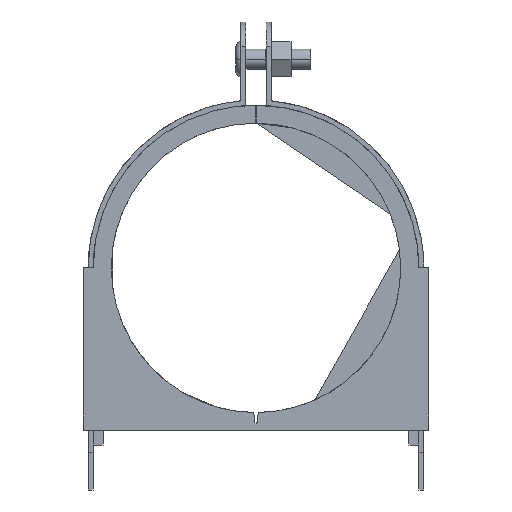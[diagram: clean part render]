
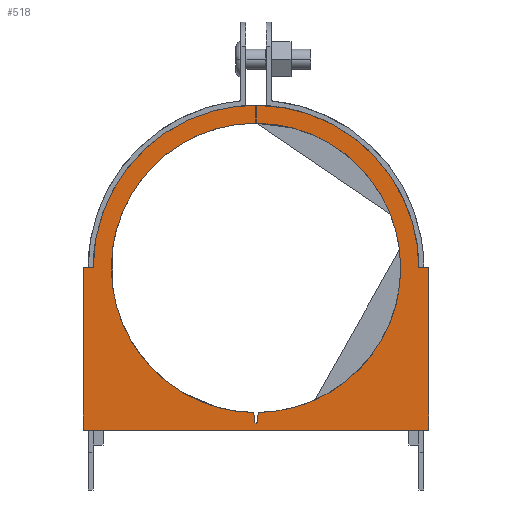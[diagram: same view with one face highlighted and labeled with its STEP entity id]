
A CAD part, front view. The second image highlights one B-rep face of the part: STEP entity #518.
In plain terms, the highlighted planar face has unit normal (0, -1, 0).
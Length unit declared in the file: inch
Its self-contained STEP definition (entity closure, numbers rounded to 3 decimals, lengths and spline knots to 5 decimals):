
#518=ADVANCED_FACE('',(#1274),#1275,.T.);
#1274=FACE_OUTER_BOUND('',#2351,.T.);
#1275=PLANE('',#2352);
#2351=EDGE_LOOP('',(#4117,#4118,#4119,#4120,#4121,#4122,#4123,#4124,#4125,#4126,#4127,#4128,#4129,#4130,#4131,#4132,#4133));
#2352=AXIS2_PLACEMENT_3D('',#4134,#4135,#4136);
#4117=ORIENTED_EDGE('',*,*,#5277,.F.);
#4118=ORIENTED_EDGE('',*,*,#5278,.F.);
#4119=ORIENTED_EDGE('',*,*,#5279,.F.);
#4120=ORIENTED_EDGE('',*,*,#5280,.F.);
#4121=ORIENTED_EDGE('',*,*,#5235,.F.);
#4122=ORIENTED_EDGE('',*,*,#5281,.F.);
#4123=ORIENTED_EDGE('',*,*,#5211,.F.);
#4124=ORIENTED_EDGE('',*,*,#5282,.F.);
#4125=ORIENTED_EDGE('',*,*,#5283,.F.);
#4126=ORIENTED_EDGE('',*,*,#5284,.F.);
#4127=ORIENTED_EDGE('',*,*,#5249,.F.);
#4128=ORIENTED_EDGE('',*,*,#5228,.F.);
#4129=ORIENTED_EDGE('',*,*,#5285,.F.);
#4130=ORIENTED_EDGE('',*,*,#5184,.F.);
#4131=ORIENTED_EDGE('',*,*,#5286,.F.);
#4132=ORIENTED_EDGE('',*,*,#5287,.F.);
#4133=ORIENTED_EDGE('',*,*,#5288,.F.);
#4134=CARTESIAN_POINT('',(2.10021,-0.125,2.61663));
#4135=DIRECTION('',(0.0,-1.0,0.0));
#4136=DIRECTION('',(1.0,0.0,0.0));
#5184=EDGE_CURVE('',#5591,#5592,#5593,.T.);
#5211=EDGE_CURVE('',#5634,#5636,#5637,.T.);
#5228=EDGE_CURVE('',#5659,#5660,#5661,.T.);
#5235=EDGE_CURVE('',#5671,#5672,#5673,.T.);
#5249=EDGE_CURVE('',#5660,#5694,#5695,.T.);
#5277=EDGE_CURVE('',#5738,#5739,#5740,.T.);
#5278=EDGE_CURVE('',#5741,#5738,#5742,.T.);
#5279=EDGE_CURVE('',#5743,#5741,#5744,.T.);
#5280=EDGE_CURVE('',#5672,#5743,#5745,.T.);
#5281=EDGE_CURVE('',#5636,#5671,#5746,.T.);
#5282=EDGE_CURVE('',#5747,#5634,#5748,.T.);
#5283=EDGE_CURVE('',#5749,#5747,#5750,.T.);
#5284=EDGE_CURVE('',#5694,#5749,#5751,.T.);
#5285=EDGE_CURVE('',#5592,#5659,#5752,.T.);
#5286=EDGE_CURVE('',#5753,#5591,#5754,.T.);
#5287=EDGE_CURVE('',#5755,#5753,#5756,.T.);
#5288=EDGE_CURVE('',#5739,#5755,#5757,.T.);
#5591=VERTEX_POINT('',#6148);
#5592=VERTEX_POINT('',#6149);
#5593=LINE('',#6150,#6151);
#5634=VERTEX_POINT('',#6215);
#5636=VERTEX_POINT('',#6218);
#5637=LINE('',#6219,#6220);
#5659=VERTEX_POINT('',#6254);
#5660=VERTEX_POINT('',#6255);
#5661=B_SPLINE_CURVE_WITH_KNOTS('',3,(#6256,#6257,#6258,#6259),.UNSPECIFIED.,.F.,.F.,(4,4),(-1.0,-0.0),.UNSPECIFIED.);
#5671=VERTEX_POINT('',#6277);
#5672=VERTEX_POINT('',#6278);
#5673=LINE('',#6279,#6280);
#5694=VERTEX_POINT('',#6313);
#5695=LINE('',#6314,#6315);
#5738=VERTEX_POINT('',#6388);
#5739=VERTEX_POINT('',#6389);
#5740=B_SPLINE_CURVE_WITH_KNOTS('',3,(#6390,#6391,#6392,#6393),.UNSPECIFIED.,.F.,.F.,(4,4),(-1.0,-0.0),.UNSPECIFIED.);
#5741=VERTEX_POINT('',#6394);
#5742=B_SPLINE_CURVE_WITH_KNOTS('',3,(#6395,#6396,#6397,#6398),.UNSPECIFIED.,.F.,.F.,(4,4),(-1.0,-0.0),.UNSPECIFIED.);
#5743=VERTEX_POINT('',#6399);
#5744=LINE('',#6400,#6401);
#5745=B_SPLINE_CURVE_WITH_KNOTS('',3,(#6402,#6403,#6404,#6405),.UNSPECIFIED.,.F.,.F.,(4,4),(-1.0,-0.0),.UNSPECIFIED.);
#5746=LINE('',#6406,#6407);
#5747=VERTEX_POINT('',#6408);
#5748=LINE('',#6409,#6410);
#5749=VERTEX_POINT('',#6411);
#5750=LINE('',#6412,#6413);
#5751=B_SPLINE_CURVE_WITH_KNOTS('',3,(#6414,#6415,#6416,#6417),.UNSPECIFIED.,.F.,.F.,(4,4),(-1.0,-0.0),.UNSPECIFIED.);
#5752=B_SPLINE_CURVE_WITH_KNOTS('',3,(#6418,#6419,#6420,#6421),.UNSPECIFIED.,.F.,.F.,(4,4),(-1.0,-0.0),.UNSPECIFIED.);
#5753=VERTEX_POINT('',#6422);
#5754=LINE('',#6423,#6424);
#5755=VERTEX_POINT('',#6425);
#5756=LINE('',#6426,#6427);
#5757=LINE('',#6428,#6429);
#6148=CARTESIAN_POINT('',(2.11645,-0.125,0.84222));
#6149=CARTESIAN_POINT('',(2.12822,-0.125,0.96926));
#6150=CARTESIAN_POINT('',(2.12822,-0.125,0.96926));
#6151=VECTOR('',#7056,1.0);
#6215=CARTESIAN_POINT('',(4.26281,-0.125,0.74972));
#6218=CARTESIAN_POINT('',(-0.06254,-0.125,0.74972));
#6219=CARTESIAN_POINT('',(-0.06254,-0.125,0.74972));
#6220=VECTOR('',#7075,1.0);
#6254=CARTESIAN_POINT('',(3.91022,-0.125,2.77898));
#6255=CARTESIAN_POINT('',(2.10611,-0.125,4.58895));
#6256=CARTESIAN_POINT('',(3.91022,-0.125,2.77898));
#6257=CARTESIAN_POINT('',(3.91022,-0.125,3.77666));
#6258=CARTESIAN_POINT('',(3.10306,-0.125,4.58579));
#6259=CARTESIAN_POINT('',(2.10611,-0.125,4.58895));
#6277=CARTESIAN_POINT('',(-0.06254,-0.125,2.7878));
#6278=CARTESIAN_POINT('',(0.06279,-0.125,2.78792));
#6279=CARTESIAN_POINT('',(0.06279,-0.125,2.78792));
#6280=VECTOR('',#7087,1.0);
#6313=CARTESIAN_POINT('',(2.10598,-0.125,4.81342));
#6314=CARTESIAN_POINT('',(2.10598,-0.125,4.81342));
#6315=VECTOR('',#7097,1.0);
#6388=CARTESIAN_POINT('',(0.29023,-0.125,2.77898));
#6389=CARTESIAN_POINT('',(2.07129,-0.125,0.96928));
#6390=CARTESIAN_POINT('',(0.29023,-0.125,2.77898));
#6391=CARTESIAN_POINT('',(0.29023,-0.125,1.78901));
#6392=CARTESIAN_POINT('',(1.085,-0.125,0.98474));
#6393=CARTESIAN_POINT('',(2.07129,-0.125,0.96928));
#6394=CARTESIAN_POINT('',(2.09469,-0.125,4.58895));
#6395=CARTESIAN_POINT('',(2.09469,-0.125,4.58895));
#6396=CARTESIAN_POINT('',(1.09766,-0.125,4.5859));
#6397=CARTESIAN_POINT('',(0.29023,-0.125,3.77672));
#6398=CARTESIAN_POINT('',(0.29023,-0.125,2.77898));
#6399=CARTESIAN_POINT('',(2.09461,-0.125,4.8134));
#6400=CARTESIAN_POINT('',(2.09469,-0.125,4.58895));
#6401=VECTOR('',#7110,1.);
#6402=CARTESIAN_POINT('',(0.06279,-0.125,2.78792));
#6403=CARTESIAN_POINT('',(0.06938,-0.125,3.90572));
#6404=CARTESIAN_POINT('',(0.97597,-0.125,4.81039));
#6405=CARTESIAN_POINT('',(2.09461,-0.125,4.8134));
#6406=CARTESIAN_POINT('',(-0.06254,-0.125,2.7878));
#6407=VECTOR('',#7111,1.0);
#6408=CARTESIAN_POINT('',(4.26281,-0.125,2.7878));
#6409=CARTESIAN_POINT('',(4.26281,-0.125,0.74972));
#6410=VECTOR('',#7112,1.0);
#6411=CARTESIAN_POINT('',(4.13764,-0.125,2.78775));
#6412=CARTESIAN_POINT('',(4.26281,-0.125,2.7878));
#6413=VECTOR('',#7113,1.0);
#6414=CARTESIAN_POINT('',(2.10598,-0.125,4.81342));
#6415=CARTESIAN_POINT('',(3.22463,-0.125,4.81028));
#6416=CARTESIAN_POINT('',(4.13123,-0.125,3.90563));
#6417=CARTESIAN_POINT('',(4.13764,-0.125,2.78775));
#6418=CARTESIAN_POINT('',(2.12822,-0.125,0.96926));
#6419=CARTESIAN_POINT('',(3.11496,-0.125,0.98421));
#6420=CARTESIAN_POINT('',(3.91022,-0.125,1.78868));
#6421=CARTESIAN_POINT('',(3.91022,-0.125,2.77898));
#6422=CARTESIAN_POINT('',(2.1008,-0.125,0.83775));
#6423=CARTESIAN_POINT('',(2.11645,-0.125,0.84222));
#6424=VECTOR('',#7114,1.);
#6425=CARTESIAN_POINT('',(2.08512,-0.125,0.84222));
#6426=CARTESIAN_POINT('',(2.1008,-0.125,0.83775));
#6427=VECTOR('',#7115,1.);
#6428=CARTESIAN_POINT('',(2.08512,-0.125,0.84222));
#6429=VECTOR('',#7116,1.0);
#7056=DIRECTION('',(0.092,0.0,0.996));
#7075=DIRECTION('',(-1.0,0.0,-0.0));
#7087=DIRECTION('',(1.,0.0,0.001));
#7097=DIRECTION('',(-0.001,0.0,1.));
#7110=DIRECTION('',(0.,0.0,-1.));
#7111=DIRECTION('',(0.0,0.0,1.0));
#7112=DIRECTION('',(-0.0,0.0,-1.0));
#7113=DIRECTION('',(1.,0.0,0.));
#7114=DIRECTION('',(0.962,0.0,0.274));
#7115=DIRECTION('',(0.962,0.0,-0.274));
#7116=DIRECTION('',(0.108,0.0,-0.994));
